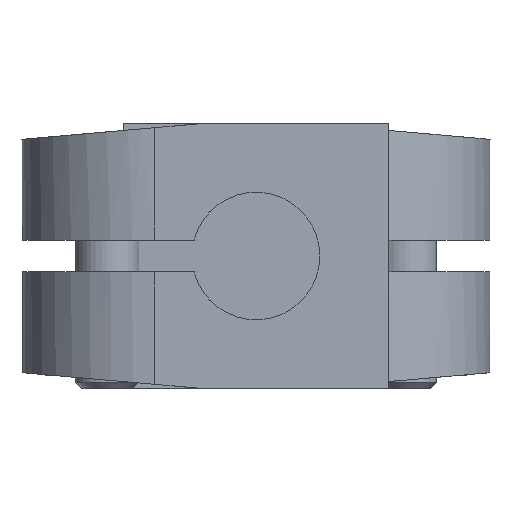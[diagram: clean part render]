
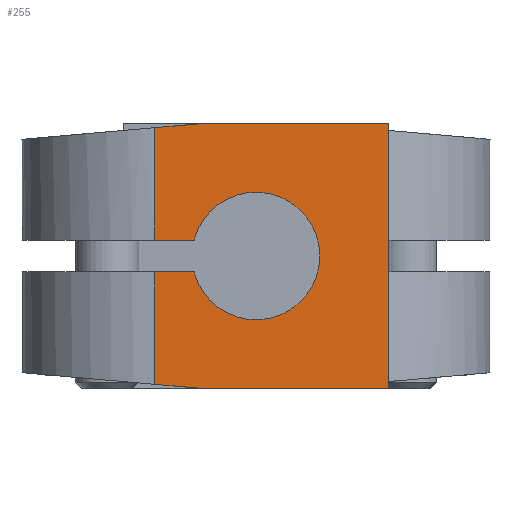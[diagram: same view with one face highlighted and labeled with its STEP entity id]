
A CAD part, left-side view. The second image highlights one B-rep face of the part: STEP entity #255.
In plain terms, the highlighted planar face has unit normal (-1, 0, 0).
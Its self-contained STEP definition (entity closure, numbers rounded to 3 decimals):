
#255 = ADVANCED_FACE( '', ( #435 ), #436, .F. );
#435 = FACE_OUTER_BOUND( '', #809, .T. );
#436 = PLANE( '', #810 );
#809 = EDGE_LOOP( '', ( #1251, #1252, #1253, #1254, #1255, #1256, #1257, #1258, #1259, #1260 ) );
#810 = AXIS2_PLACEMENT_3D( '', #1261, #1262, #1263 );
#1251 = ORIENTED_EDGE( '', *, *, #2374, .T. );
#1252 = ORIENTED_EDGE( '', *, *, #2406, .T. );
#1253 = ORIENTED_EDGE( '', *, *, #2368, .T. );
#1254 = ORIENTED_EDGE( '', *, *, #2407, .T. );
#1255 = ORIENTED_EDGE( '', *, *, #2357, .T. );
#1256 = ORIENTED_EDGE( '', *, *, #2408, .T. );
#1257 = ORIENTED_EDGE( '', *, *, #2409, .T. );
#1258 = ORIENTED_EDGE( '', *, *, #2410, .T. );
#1259 = ORIENTED_EDGE( '', *, *, #2405, .F. );
#1260 = ORIENTED_EDGE( '', *, *, #2411, .F. );
#1261 = CARTESIAN_POINT( '', ( 0., 22., 12.5 ) );
#1262 = DIRECTION( '', ( 1., 0., 0. ) );
#1263 = DIRECTION( '', ( 0., 0., -1. ) );
#2357 = EDGE_CURVE( '', #2723, #2721, #2724, .T. );
#2368 = EDGE_CURVE( '', #2737, #2741, #2743, .T. );
#2374 = EDGE_CURVE( '', #2755, #2753, #2756, .T. );
#2405 = EDGE_CURVE( '', #2809, #2806, #2811, .T. );
#2406 = EDGE_CURVE( '', #2753, #2737, #2812, .T. );
#2407 = EDGE_CURVE( '', #2741, #2723, #2813, .T. );
#2408 = EDGE_CURVE( '', #2721, #2814, #2815, .T. );
#2409 = EDGE_CURVE( '', #2814, #2816, #2817, .T. );
#2410 = EDGE_CURVE( '', #2816, #2806, #2818, .T. );
#2411 = EDGE_CURVE( '', #2755, #2809, #2819, .T. );
#2721 = VERTEX_POINT( '', #3333 );
#2723 = VERTEX_POINT( '', #3335 );
#2724 = LINE( '', #3336, #3337 );
#2737 = VERTEX_POINT( '', #3355 );
#2741 = VERTEX_POINT( '', #3360 );
#2743 = LINE( '', #3363, #3364 );
#2753 = VERTEX_POINT( '', #3378 );
#2755 = VERTEX_POINT( '', #3380 );
#2756 = LINE( '', #3381, #3382 );
#2806 = VERTEX_POINT( '', #3456 );
#2809 = VERTEX_POINT( '', #3461 );
#2811 = LINE( '', #3464, #3465 );
#2812 = LINE( '', #3466, #3467 );
#2813 = CIRCLE( '', #3468, 6. );
#2814 = VERTEX_POINT( '', #3469 );
#2815 = LINE( '', #3470, #3471 );
#2816 = VERTEX_POINT( '', #3472 );
#2817 = LINE( '', #3473, #3474 );
#2818 = LINE( '', #3475, #3476 );
#2819 = LINE( '', #3477, #3478 );
#3333 = CARTESIAN_POINT( '', ( 0., 22., -1.5 ) );
#3335 = CARTESIAN_POINT( '', ( 0., 18.309, -1.5 ) );
#3336 = CARTESIAN_POINT( '', ( 0., 12.5, -1.5 ) );
#3337 = VECTOR( '', #4350, 1000. );
#3355 = CARTESIAN_POINT( '', ( 0., 22., 1.5 ) );
#3360 = CARTESIAN_POINT( '', ( 0., 18.309, 1.5 ) );
#3363 = CARTESIAN_POINT( '', ( 0., 39.5, 1.5 ) );
#3364 = VECTOR( '', #4367, 1000. );
#3378 = CARTESIAN_POINT( '', ( 0., 22., 12.063 ) );
#3380 = CARTESIAN_POINT( '', ( 0., 17., 12.5 ) );
#3381 = CARTESIAN_POINT( '', ( 0., 17., 12.5 ) );
#3382 = VECTOR( '', #4375, 1000. );
#3456 = CARTESIAN_POINT( '', ( 0., 0., -12.5 ) );
#3461 = CARTESIAN_POINT( '', ( 0., 0., 12.5 ) );
#3464 = CARTESIAN_POINT( '', ( 0., 0., 12.5 ) );
#3465 = VECTOR( '', #4412, 1000. );
#3466 = CARTESIAN_POINT( '', ( 0., 22., 12.5 ) );
#3467 = VECTOR( '', #4413, 1000. );
#3468 = AXIS2_PLACEMENT_3D( '', #4414, #4415, #4416 );
#3469 = CARTESIAN_POINT( '', ( 0., 22., -12.063 ) );
#3470 = CARTESIAN_POINT( '', ( 0., 22., 12.5 ) );
#3471 = VECTOR( '', #4417, 1000. );
#3472 = CARTESIAN_POINT( '', ( 0., 17., -12.5 ) );
#3473 = CARTESIAN_POINT( '', ( 0., 34.5, -10.969 ) );
#3474 = VECTOR( '', #4418, 1000. );
#3475 = CARTESIAN_POINT( '', ( 0., 22., -12.5 ) );
#3476 = VECTOR( '', #4419, 1000. );
#3477 = CARTESIAN_POINT( '', ( 0., 22., 12.5 ) );
#3478 = VECTOR( '', #4420, 1000. );
#4350 = DIRECTION( '', ( 0., 1., 0. ) );
#4367 = DIRECTION( '', ( 0., -1., 0. ) );
#4375 = DIRECTION( '', ( 0., 0.996, -0.087 ) );
#4412 = DIRECTION( '', ( 0., 0., -1. ) );
#4413 = DIRECTION( '', ( 0., 0., -1. ) );
#4414 = CARTESIAN_POINT( '', ( 0., 12.5, 0. ) );
#4415 = DIRECTION( '', ( 1., 0., 0. ) );
#4416 = DIRECTION( '', ( 0., 0., -1. ) );
#4417 = DIRECTION( '', ( 0., 0., -1. ) );
#4418 = DIRECTION( '', ( 0., -0.996, -0.087 ) );
#4419 = DIRECTION( '', ( 0., -1., 0. ) );
#4420 = DIRECTION( '', ( 0., -1., 0. ) );
